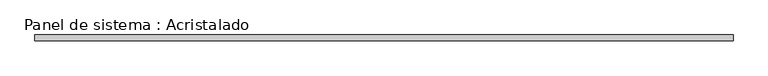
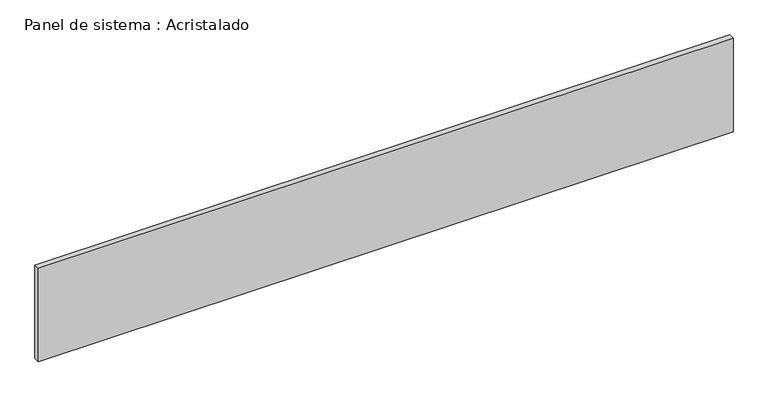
"""IFC4 building model written with IfcOpenShell, lengths in millimetres: plate geometry, Panel de sistema : Acristalado."""

from ifc_helpers import new_model, si_unit, origin, origin_with_axes, place, context, project, spatial, polyline, outline, extrude, source, transform, mapped, element, save


def panel_de_sistema_acristalado_4d856043(model_context):
    return source(origin(), model_context, "Body", "SweptSolid", [
        extrude(outline(polyline([(1191.702362, -10.0), (-1191.702362, -10.0), (-1191.702362, 10.0), (1191.702362, 10.0), (1191.702362, -10.0)])), origin_with_axes(), (0.0, 0.0, 1.0), 338.2604383),
    ])


if __name__ == "__main__":
    model = new_model("IFC4")
    model_context = context("Model", 3, world=origin())
    ifc_project = project(units=[si_unit("LENGTHUNIT", "METRE", prefix="MILLI")], contexts=[model_context])
    site = spatial("IfcSite", under=ifc_project)
    building = spatial("IfcBuilding", under=site)
    placement = place(None, origin())
    panel_de_sistema_acristalado_shape = panel_de_sistema_acristalado_4d856043(model_context)
    element("IfcPlate", 1, ObjectType="Panel de sistema : Acristalado", at=placement, inside=building, context=model_context, shape_type="MappedRepresentation", body=[
        mapped(panel_de_sistema_acristalado_shape, transform((0.0, 0.0, 0.0), x_axis=(1.0, 0.0, 0.0), y_axis=(0.0, 1.0, 0.0), z_axis=(0.0, 0.0, 1.0))),
    ])
    save(model, "model.ifc")
